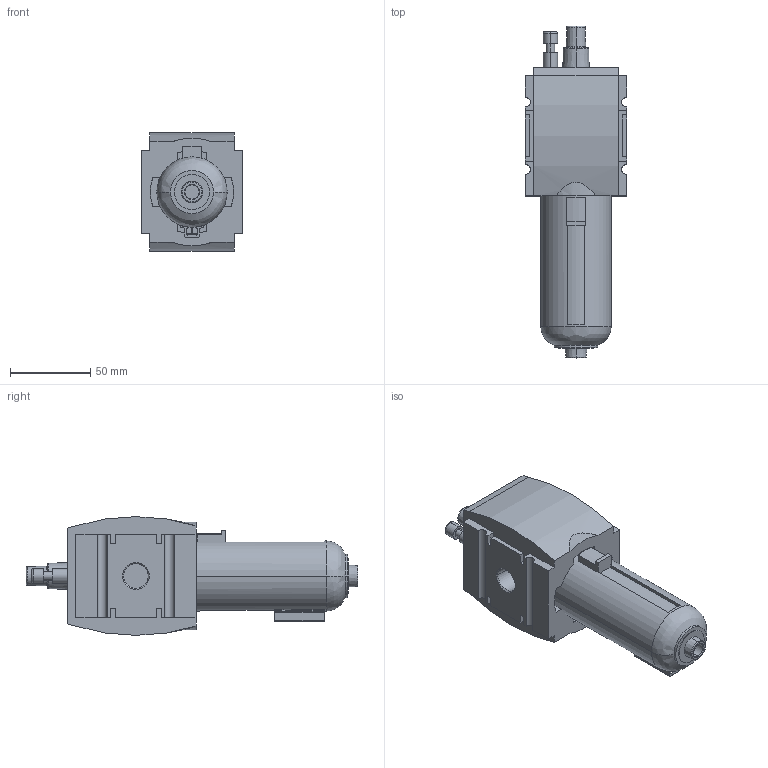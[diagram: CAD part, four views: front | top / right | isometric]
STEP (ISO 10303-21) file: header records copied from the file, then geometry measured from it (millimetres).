
FILE_DESCRIPTION((''),'2;1');
FILE_NAME('R412007226_ASM','2019-08-21T',('PDH2HC'),(''),'CREO PARAMETRIC BY PTC INC, 2016260','CREO PARAMETRIC BY PTC INC, 2016260','');
FILE_SCHEMA(('CONFIG_CONTROL_DESIGN'));
Length unit declared in the file: millimetre
Products named in the file (4): R412007226; AS3_RES_LUBRICATOR; ASX-SENSOR_HOLDER; R412007226_ASM
Assembly tree (3 placements, depth 2):
  R412007226_ASM
    R412007226
    AS3_RES_LUBRICATOR
    ASX-SENSOR_HOLDER
Bounding box: 63 x 207 x 74 mm (x, y, z)
Volume: 457313 mm3; surface area: 60647.3 mm2
Topology: 3 solids, 3 shells, 251 faces, 671 edges, 442 vertices
Faces by surface type: plane 158, cylinder 67, cone 12, torus 12, bspline 2
Entity records: 8174 total; most frequent: CARTESIAN_POINT 1603, DIRECTION 1378, ORIENTED_EDGE 1342, EDGE_CURVE 671, AXIS2_PLACEMENT_3D 466, VECTOR 446, LINE 446, VERTEX_POINT 442
